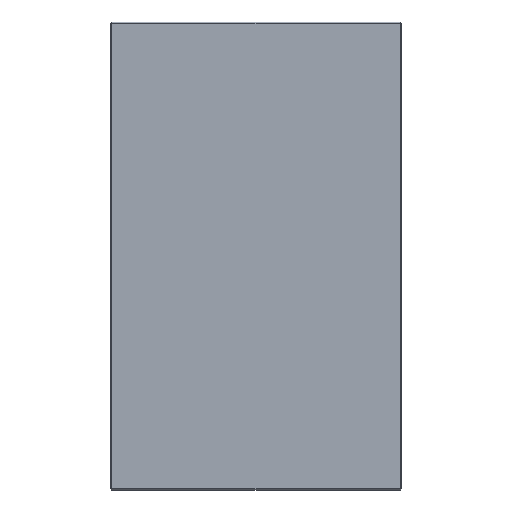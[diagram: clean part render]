
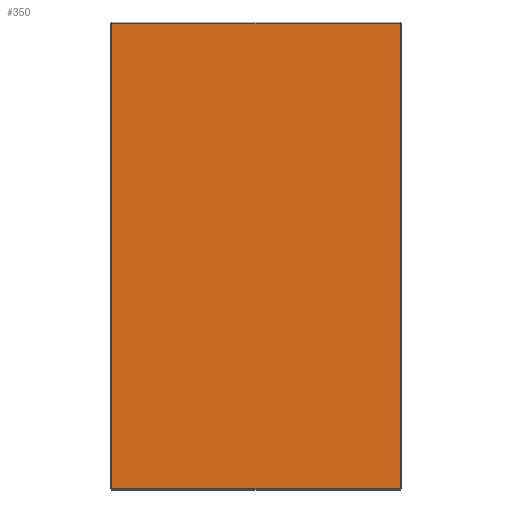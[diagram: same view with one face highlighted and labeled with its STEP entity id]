
A CAD part, front view. The second image highlights one B-rep face of the part: STEP entity #350.
In plain terms, the highlighted planar face has unit normal (0, -1, 0).
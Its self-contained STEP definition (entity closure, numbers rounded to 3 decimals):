
#2 = EDGE_CURVE ( 'NONE', #147, #157, #528, .T. ) ;
#6 = DIRECTION ( 'NONE',  ( 0., 0., 1. ) ) ;
#13 = CARTESIAN_POINT ( 'NONE',  ( 122., 0., 197. ) ) ;
#14 = CARTESIAN_POINT ( 'NONE',  ( 0., 0., 0. ) ) ;
#20 = PLANE ( 'NONE',  #145 ) ;
#31 = CARTESIAN_POINT ( 'NONE',  ( 122., 0., 0. ) ) ;
#42 = DIRECTION ( 'NONE',  ( 0., 1., 0. ) ) ;
#48 = LINE ( 'NONE', #429, #201 ) ;
#75 = EDGE_CURVE ( 'NONE', #157, #621, #48, .T. ) ;
#79 = EDGE_CURVE ( 'NONE', #621, #270, #153, .T. ) ;
#96 = EDGE_CURVE ( 'NONE', #270, #147, #604, .T. ) ;
#145 = AXIS2_PLACEMENT_3D ( 'NONE', #14, #42, #6 ) ;
#147 = VERTEX_POINT ( 'NONE', #286 ) ;
#150 = DIRECTION ( 'NONE',  ( 1., 0., 0. ) ) ;
#153 = LINE ( 'NONE', #633, #180 ) ;
#157 = VERTEX_POINT ( 'NONE', #13 ) ;
#163 = CARTESIAN_POINT ( 'NONE',  ( -122., 0., -197. ) ) ;
#176 = EDGE_LOOP ( 'NONE', ( #230, #566, #308, #458 ) ) ;
#180 = VECTOR ( 'NONE', #299, 1000. ) ;
#201 = VECTOR ( 'NONE', #426, 1000. ) ;
#230 = ORIENTED_EDGE ( 'NONE', *, *, #2, .T. ) ;
#251 = VECTOR ( 'NONE', #575, 1000. ) ;
#270 = VERTEX_POINT ( 'NONE', #163 ) ;
#286 = CARTESIAN_POINT ( 'NONE',  ( 122., 0., -197. ) ) ;
#299 = DIRECTION ( 'NONE',  ( 0., 0., -1. ) ) ;
#308 = ORIENTED_EDGE ( 'NONE', *, *, #79, .T. ) ;
#344 = CARTESIAN_POINT ( 'NONE',  ( 0., 0., -197. ) ) ;
#350 = ADVANCED_FACE ( 'NONE', ( #614 ), #20, .F. ) ;
#426 = DIRECTION ( 'NONE',  ( -1., 0., 0. ) ) ;
#429 = CARTESIAN_POINT ( 'NONE',  ( 0., 0., 197. ) ) ;
#457 = CARTESIAN_POINT ( 'NONE',  ( -122., 0., 197. ) ) ;
#458 = ORIENTED_EDGE ( 'NONE', *, *, #96, .T. ) ;
#528 = LINE ( 'NONE', #31, #251 ) ;
#566 = ORIENTED_EDGE ( 'NONE', *, *, #75, .T. ) ;
#575 = DIRECTION ( 'NONE',  ( 0., 0., 1. ) ) ;
#604 = LINE ( 'NONE', #344, #626 ) ;
#614 = FACE_OUTER_BOUND ( 'NONE', #176, .T. ) ;
#621 = VERTEX_POINT ( 'NONE', #457 ) ;
#626 = VECTOR ( 'NONE', #150, 1000. ) ;
#633 = CARTESIAN_POINT ( 'NONE',  ( -122., 0., 0. ) ) ;
